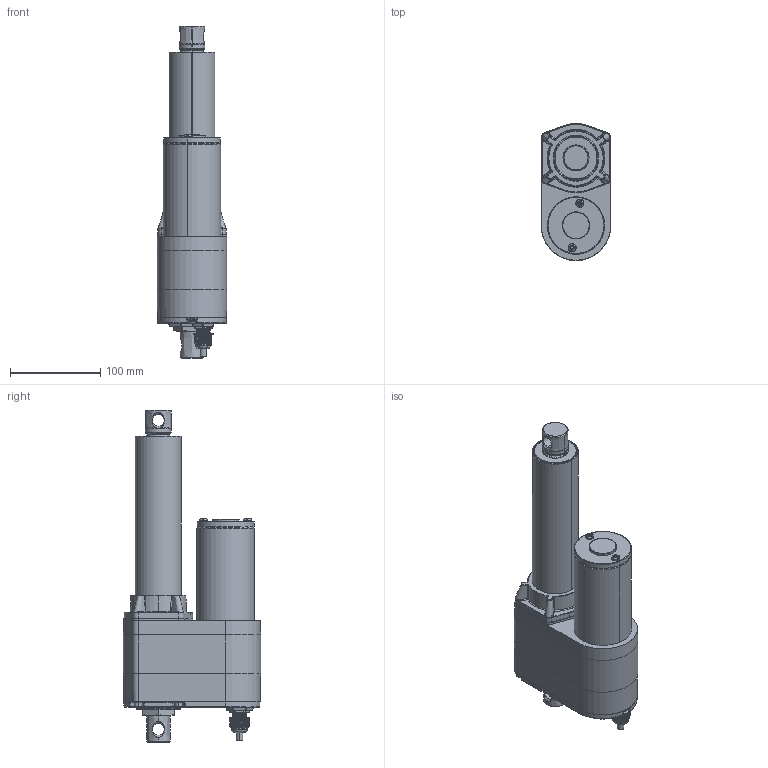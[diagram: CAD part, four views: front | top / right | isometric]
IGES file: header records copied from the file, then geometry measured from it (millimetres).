
Start section: SolidWorks IGES file using analytic representation for surfaces
Global section: file name: C:\Users\lynn\Desktop\工作用資料夾\3D CAD Models Community\ID10(over)\新增IP69\ID10\3D\ID10-B-102-POT-IP69K\ID10-B-102-POT-IP69K.IGS; native system: SolidWorks 2020; preprocessor: SolidWorks 2020; author: lynn; date: 221005.090128; units: millimetre
Bounding box: 77.3 x 151.8 x 367.5 mm (x, y, z)
Surface area: 175580.9 mm2 (no closed solid volume)
Topology: 0 solids, 0 shells, 2296 faces, 21688 edges, 21640 vertices
Faces by surface type: bspline 1474, revolution 822
